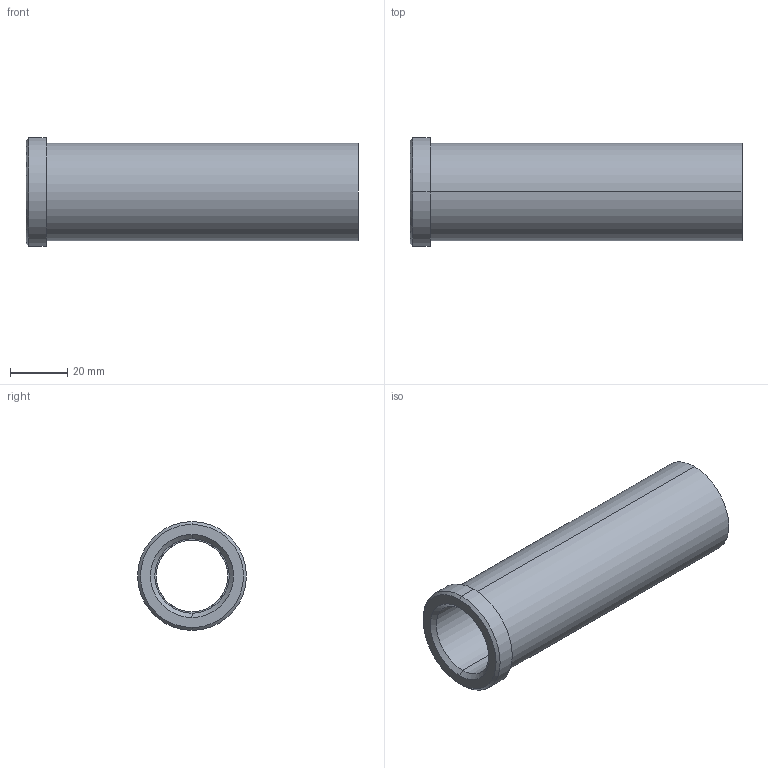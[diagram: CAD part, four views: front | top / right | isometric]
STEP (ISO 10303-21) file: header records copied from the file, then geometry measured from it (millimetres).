
FILE_DESCRIPTION(('CATIA V5 STEP Exchange'),'2;1');
FILE_NAME('C:\Users\Utente\Desktop\IO LAVORO\3D X SITO CF\X SITO\PLASTICA\353\353-25X116.stp','2021-05-12T18:32:21+00:00',('none'),('none'),'CATIA Version 5 Release 20 GA (IN-10)','CATIA V5 STEP AP203','none');
FILE_SCHEMA(('CONFIG_CONTROL_DESIGN'));
Length unit declared in the file: millimetre
Products named in the file (1): 353-25X116
Bounding box: 116 x 38 x 38 mm (x, y, z)
Volume: 47093.2 mm3; surface area: 22877.1 mm2
Topology: 1 solids, 1 shells, 18 faces, 58 edges, 44 vertices
Faces by surface type: cylinder 8, plane 4, cone 4, torus 2
Entity records: 840 total; most frequent: CARTESIAN_POINT 289, ORIENTED_EDGE 116, DIRECTION 82, EDGE_CURVE 58, AXIS2_PLACEMENT_3D 53, VERTEX_POINT 44, CIRCLE 34, EDGE_LOOP 22
